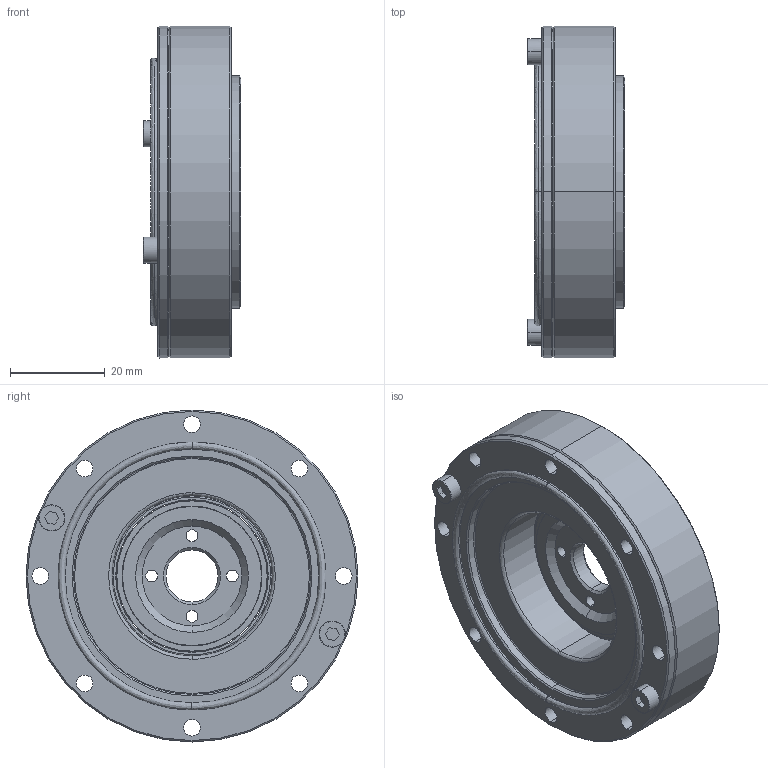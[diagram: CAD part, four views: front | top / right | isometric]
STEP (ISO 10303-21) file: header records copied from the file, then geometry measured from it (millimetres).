
FILE_DESCRIPTION (( 'STEP AP214' ), '1' );
FILE_NAME ('SHD-14-XXX-SH.STEP', '2023-03-25T05:58:23', ( 'Admin' ), ( '' ), 'SwSTEP 2.0', 'SolidWorks 2018', '' );
FILE_SCHEMA (( 'AUTOMOTIVE_DESIGN' ));
Length unit declared in the file: millimetre
Products named in the file (38): SHD -14-XXX-SH_24; SHD-14-XXX-SH_20; SHD-14-XXX-SH_31; SHD-14-XXX-SH_30; SHD-14-XXX-SH; SHD-14-XXX-SH_18; SHD-14-XXX-SH_10; SHD-14-XXX-SH_15; SHD-14-XXX-SH_17; SHD-14-XXX-SH_3; SHD -14-XXX-SH_4; SHD-14-XXX-SH_6; SHD-14-XXX-SH_35; SHD-14-XXX-SH_32; SHD-14-XXX-SH_22; SHD-14-XXX-SH_11; SHD-14-XXX-SH_8; SHD -14-XXX-SH_19; SHD-14-XXX-SH_27; SHD-14-XXX-SH_14; SHD -14-XXX-SH_33; SHD-14-XXX-SH_25; SHD-14-XXX-SH_29; SHD-14-XXX-SH_28; SHD-14-XXX-SH_5; SHD-14-XXX-SH_36; SHD-14-XXX-SH_2; SHD-14-XXX-SH_12; SHD-14-XXX-SH_7; SHD-14-XXX-SH_9; SHD -14-XXX-SH_37; SHD-14-XXX-SH_34; SHD -14-XXX-SH_16; SHD-14-XXX-SH_26; SHD -14-XXX-SH_21; SHD-14-XXX-SH_23; SHD-14-XXX-SH_13
Assembly tree (37 placements, depth 2):
  SHD-14-XXX-SH
    SHD -14-XXX-SH_24
    SHD -14-XXX-SH_4
    SHD -14-XXX-SH_21
    SHD -14-XXX-SH_37
    SHD -14-XXX-SH_19
    SHD -14-XXX-SH_33
    SHD -14-XXX-SH_16
    SHD-14-XXX-SH_17
    SHD-14-XXX-SH_7
    SHD-14-XXX-SH_3
    SHD-14-XXX-SH_9
    SHD-14-XXX-SH
    SHD-14-XXX-SH_14
    SHD-14-XXX-SH_10
    SHD-14-XXX-SH_22
    SHD-14-XXX-SH_25
    SHD-14-XXX-SH_15
    SHD-14-XXX-SH_32
    SHD-14-XXX-SH_30
    SHD-14-XXX-SH_34
    SHD-14-XXX-SH_18
    SHD-14-XXX-SH_26
    SHD-14-XXX-SH_28
    SHD-14-XXX-SH_23
    SHD-14-XXX-SH_20
    SHD-14-XXX-SH_8
    SHD-14-XXX-SH_35
    SHD-14-XXX-SH_2
    SHD-14-XXX-SH_36
    SHD-14-XXX-SH_31
    SHD-14-XXX-SH_13
    SHD-14-XXX-SH_5
    SHD-14-XXX-SH_29
    SHD-14-XXX-SH_12
    SHD-14-XXX-SH_27
    SHD-14-XXX-SH_6
    SHD-14-XXX-SH_11
Bounding box: 20.5 x 70 x 70 mm (x, y, z)
Volume: 43025.8 mm3; surface area: 38750.5 mm2
Topology: 37 solids, 37 shells, 481 faces, 1231 edges, 734 vertices
Faces by surface type: cylinder 203, plane 100, bspline 92, cone 86
Entity records: 17800 total; most frequent: CARTESIAN_POINT 4778, DIRECTION 2667, ORIENTED_EDGE 2230, AXIS2_PLACEMENT_3D 1149, EDGE_CURVE 1115, VERTEX_POINT 734, CIRCLE 720, EDGE_LOOP 573
